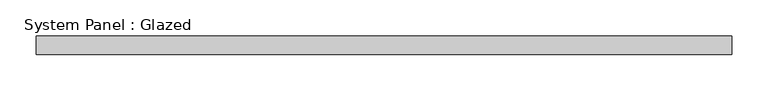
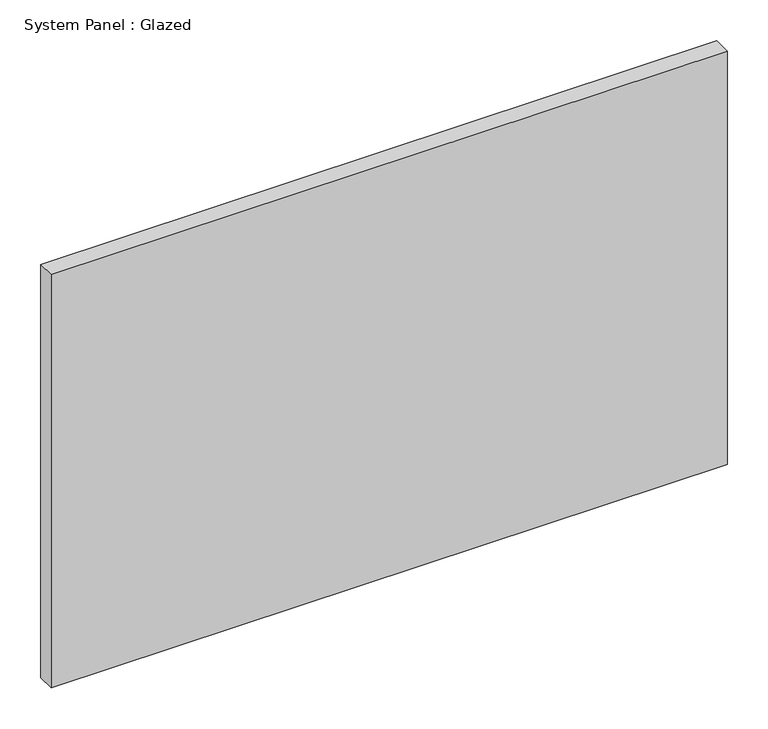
"""IFC4 building model written with IfcOpenShell, lengths in millimetres: plate geometry, System Panel : Glazed."""

from ifc_helpers import new_model, si_unit, origin, origin_with_axes, place, context, project, spatial, polyline, outline, extrude, source, transform, mapped, element, save


def system_panel_glazed_c8ef80d3(model_context):
    return source(origin(), model_context, "Body", "SweptSolid", [
        extrude(outline(polyline([(477.4359697, -72.5), (-477.4359697, -72.5), (-477.4359697, -47.5), (477.4359697, -47.5), (477.4359697, -72.5)])), origin_with_axes(), (0.0, 0.0, 1.0), 617.5961894),
    ])


if __name__ == "__main__":
    model = new_model("IFC4")
    model_context = context("Model", 3, world=origin())
    ifc_project = project(units=[si_unit("LENGTHUNIT", "METRE", prefix="MILLI")], contexts=[model_context])
    site = spatial("IfcSite", under=ifc_project)
    building = spatial("IfcBuilding", under=site)
    placement = place(None, origin())
    system_panel_glazed_shape = system_panel_glazed_c8ef80d3(model_context)
    element("IfcPlate", 1, ObjectType="System Panel : Glazed", at=placement, inside=building, context=model_context, shape_type="MappedRepresentation", body=[
        mapped(system_panel_glazed_shape, transform((0.0, 0.0, 0.0), x_axis=(1.0, 0.0, 0.0), y_axis=(0.0, 1.0, 0.0), z_axis=(0.0, 0.0, 1.0))),
    ])
    save(model, "model.ifc")
